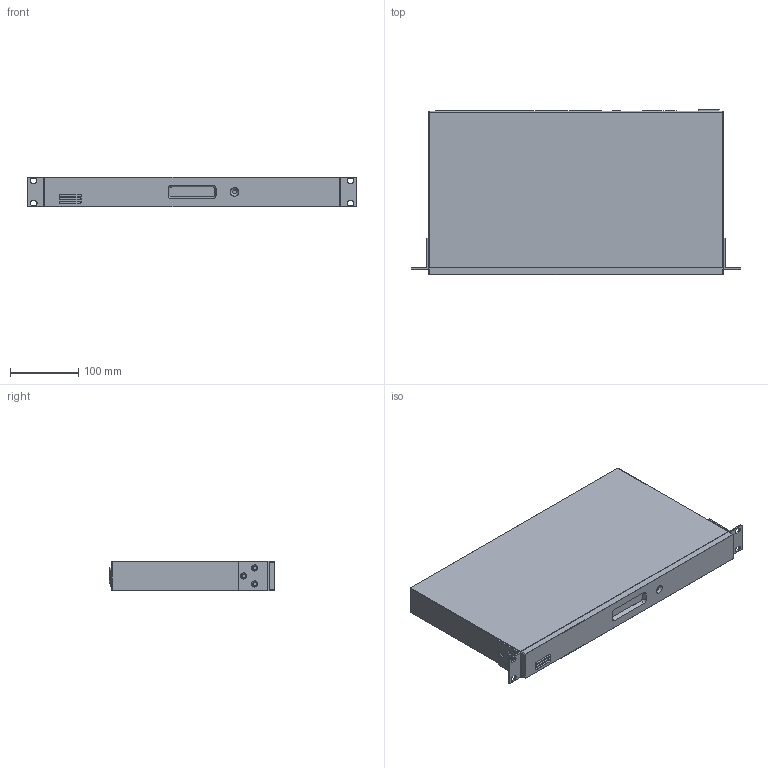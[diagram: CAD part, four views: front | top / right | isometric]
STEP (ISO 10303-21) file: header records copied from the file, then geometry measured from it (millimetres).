
FILE_DESCRIPTION(('FreeCAD Model'),'2;1');
FILE_NAME('Y:/3-AV-Parts-Sales/Produkte/nexgentec/NGTC-1280NX/drawings/NGTC-1280NX complete.step','2020-10-23T13:46:17',('Author'),(''), 'Open CASCADE STEP processor 7.3','FreeCAD','Unknown');
FILE_SCHEMA(('AUTOMOTIVE_DESIGN { 1 0 10303 214 1 1 1 1 }'));
Length unit declared in the file: millimetre
Products named in the file (11): Brackets_-_1280NX_&_Prisms001; Brackets_-_1280NX_&_Prisms; USB_Audio_socket001; 1280NX_&_Prism_front; 1280NX_case; Body006; Body005; Body004; Body009; Body007; Body008
Bounding box: 484.09 x 243 x 44.1 mm (x, y, z)
Volume: 4530027 mm3; surface area: 373586.1 mm2
Topology: 11 solids, 11 shells, 2701 faces, 7228 edges, 4734 vertices
Faces by surface type: plane 2382, cylinder 217, cone 94, sphere 4, revolution 4
Full cylindrical faces by diameter (mm): 2.1 x4, 2.5 x4, 3 x1, 5 x14, 5.6 x1
Entity records: 177505 total; most frequent: CARTESIAN_POINT 30520, DIRECTION 27380, LINE 20708, VECTOR 20708, ORIENTED_EDGE 14448, PCURVE 14448, DEFINITIONAL_REPRESENTATION 14448, EDGE_CURVE 7224
